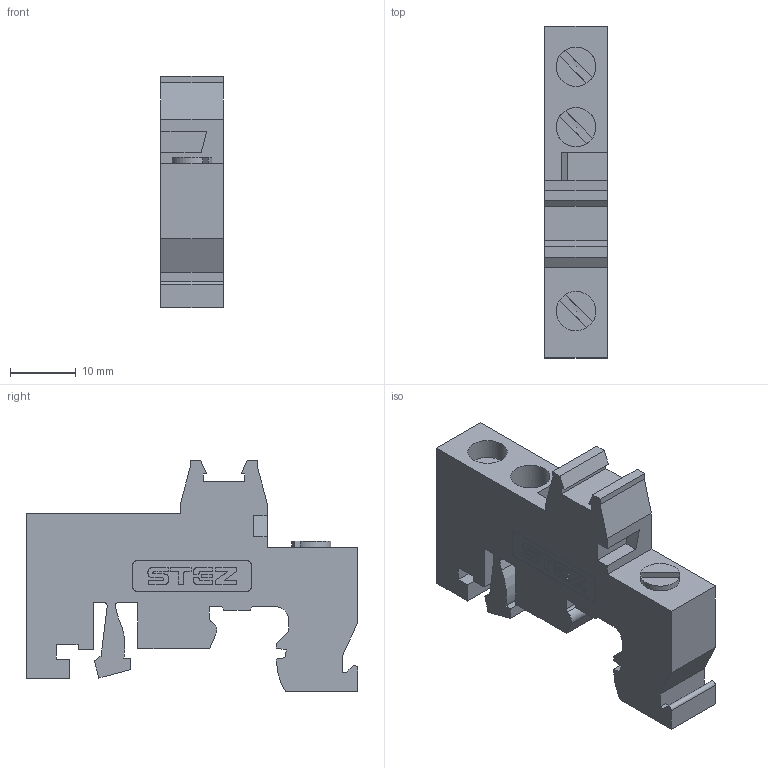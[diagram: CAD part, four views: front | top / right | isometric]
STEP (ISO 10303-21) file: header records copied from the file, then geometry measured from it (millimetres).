
FILE_DESCRIPTION(('TFLEX Exchange Step'),'2;1');
FILE_NAME('15100001_CKB_35.stp', '2024-03-14T11:00:16+03:00',('apanin'),('Unknown organisation'),'TFLEX Exchange 2023.2','T-FLEX CAD','Unknown authorisation');
FILE_SCHEMA( ('AUTOMOTIVE_DESIGN { 1 0 10303 214 1 1 1 1 }') );
Length unit declared in the file: millimetre
Products named in the file (1): Тело_1 - 1:1
Bounding box: 9.5 x 50.5 x 35.3 mm (x, y, z)
Volume: 9585.3 mm3; surface area: 4881.8 mm2
Topology: 1 solids, 1 shells, 324 faces, 956 edges, 641 vertices
Faces by surface type: cylinder 178, plane 143, bspline 3
Full cylindrical faces by diameter (mm): 6 x2
Entity records: 11647 total; most frequent: CARTESIAN_POINT 2612, DIRECTION 1956, ORIENTED_EDGE 1906, EDGE_CURVE 953, AXIS2_PLACEMENT_3D 699, VERTEX_POINT 641, VECTOR 558, LINE 558
